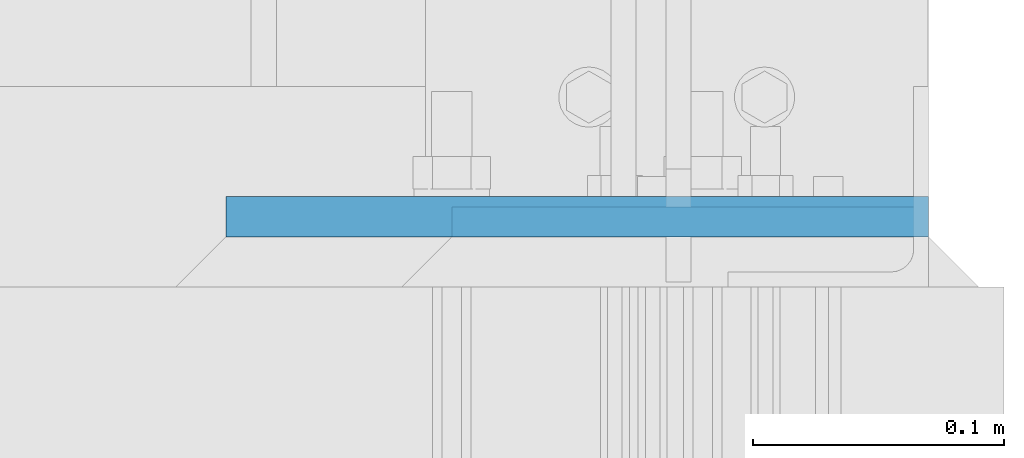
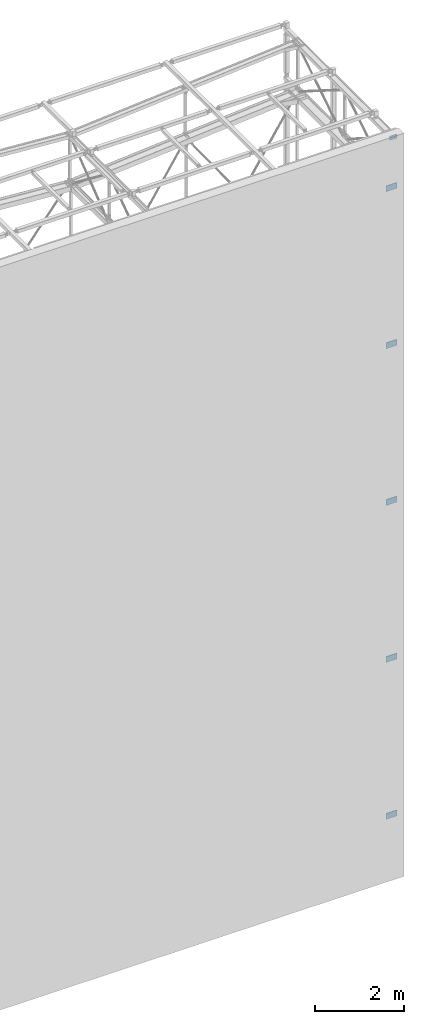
# One storey, part 83 of 271: 6 beams, 6 elements without a shape of their own.
"""IFC2X3 building model written with IfcOpenShell, lengths in millimetres."""

from ifc_helpers import new_model, si_unit, frame, origin_with_axes, origin_2d_with_axis, place, context, subcontext, project, spatial, rectangle, extrude, material, type_object, element, aggregate, save


model = new_model("IFC2X3")

# Units and contexts
model_context = context("Model", 3, precision=1e-05, world=origin_with_axes())
body_context = subcontext(model_context, "Body", "Model", "MODEL_VIEW")
ifc_project = project(units=[si_unit("LENGTHUNIT", "METRE", prefix="MILLI"), si_unit("AREAUNIT", "SQUARE_METRE"), si_unit("VOLUMEUNIT", "CUBIC_METRE"), si_unit("MASSUNIT", "GRAM", prefix="KILO"), si_unit("TIMEUNIT", "SECOND"), si_unit("PLANEANGLEUNIT", "RADIAN"), si_unit("SOLIDANGLEUNIT", "STERADIAN"), si_unit("THERMODYNAMICTEMPERATUREUNIT", "DEGREE_CELSIUS"), si_unit("LUMINOUSINTENSITYUNIT", "LUMEN")], contexts=[model_context])

# Site, building, storey
site_placement = place(None, origin_with_axes())
site = spatial("IfcSite", under=ifc_project, at=site_placement, Name="Undefined", CompositionType="ELEMENT")
building_placement = place(site_placement, origin_with_axes())
building = spatial("IfcBuilding", under=site, at=building_placement, Name="Undefined", CompositionType="ELEMENT")
storey_placement = place(building_placement, origin_with_axes())
storey = spatial("IfcBuildingStorey", under=building, at=storey_placement, Name="Undefined", CompositionType="ELEMENT", Elevation=0.0)

# Assembly, beam
assembly_1_placement = place(storey_placement, origin_with_axes())
assembly_1 = element("IfcElementAssembly", 1, at=assembly_1_placement, inside=storey, AssemblyPlace="NOTDEFINED", PredefinedType="RIGID_FRAME")
ifc_material = material(Name="STEEL/S355JR")
beam_type_1 = type_object("IfcBeamType", Name="BL12*110", PredefinedType="NOTDEFINED")
beam_1_placement = place(assembly_1_placement, frame((12518.3756870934, 25.3249842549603, 20004.3499999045), z_axis=(0.0, 0.0, -1.0), x_axis=(1.0, 0.0, 0.0)))
beam_1 = element("IfcBeam", 2, at=beam_1_placement, type_object=beam_type_1, material=ifc_material, Name="BLACHA_PODSTAWY", ObjectType="BL12*110", context=body_context, shape_type="SweptSolid", body=[
    extrude(rectangle(XDim=12.0, YDim=110.0, at=origin_2d_with_axis()), frame((190.0, 0.0, 0.0), z_axis=(-1.0, 0.0, 1.38777878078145e-17), x_axis=(0.0, -1.0, 0.0)), (0.0, 0.0, 1.0), 190.0),
])
aggregate(assembly_1, [beam_1])

assembly_2_placement = place(storey_placement, origin_with_axes())
assembly_2 = element("IfcElementAssembly", 3, at=assembly_2_placement, inside=storey, AssemblyPlace="NOTDEFINED", PredefinedType="RIGID_FRAME")
beam_type_2 = type_object("IfcBeamType", Name="BL16*160", PredefinedType="NOTDEFINED")
beam_2_placement = place(assembly_2_placement, frame((12428.3756870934, 27.3249842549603, 1364.34999990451), z_axis=(0.0, 0.0, -1.0), x_axis=(1.0, 0.0, 0.0)))
beam_2 = element("IfcBeam", 4, at=beam_2_placement, type_object=beam_type_2, material=ifc_material, Name="BLACHA_PODSTAWY", ObjectType="BL16*160", context=body_context, shape_type="SweptSolid", body=[
    extrude(rectangle(XDim=16.0, YDim=160.0, at=origin_2d_with_axis()), frame((280.0, 0.0, 0.0), z_axis=(-1.0, 0.0, 1.38777878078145e-17), x_axis=(0.0, -1.0, 0.0)), (0.0, 0.0, 1.0), 280.0),
])
aggregate(assembly_2, [beam_2])

assembly_3_placement = place(storey_placement, origin_with_axes())
assembly_3 = element("IfcElementAssembly", 5, at=assembly_3_placement, inside=storey, AssemblyPlace="NOTDEFINED", PredefinedType="RIGID_FRAME")
beam_3_placement = place(assembly_3_placement, frame((12428.3756870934, 27.3249842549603, 5684.34999990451), z_axis=(0.0, 0.0, -1.0), x_axis=(1.0, 0.0, 0.0)))
beam_3 = element("IfcBeam", 6, at=beam_3_placement, type_object=beam_type_2, material=ifc_material, Name="BLACHA_PODSTAWY", ObjectType="BL16*160", context=body_context, shape_type="SweptSolid", body=[
    extrude(rectangle(XDim=16.0, YDim=160.0, at=origin_2d_with_axis()), frame((280.0, 0.0, 0.0), z_axis=(-1.0, 0.0, 1.38777878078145e-17), x_axis=(0.0, -1.0, 0.0)), (0.0, 0.0, 1.0), 280.0),
])
aggregate(assembly_3, [beam_3])

assembly_4_placement = place(storey_placement, origin_with_axes())
assembly_4 = element("IfcElementAssembly", 7, at=assembly_4_placement, inside=storey, AssemblyPlace="NOTDEFINED", PredefinedType="RIGID_FRAME")
beam_4_placement = place(assembly_4_placement, frame((12428.3756870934, 27.3249842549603, 10004.3499999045), z_axis=(0.0, 0.0, -1.0), x_axis=(1.0, 0.0, 0.0)))
beam_4 = element("IfcBeam", 8, at=beam_4_placement, type_object=beam_type_2, material=ifc_material, Name="BLACHA_PODSTAWY", ObjectType="BL16*160", context=body_context, shape_type="SweptSolid", body=[
    extrude(rectangle(XDim=16.0, YDim=160.0, at=origin_2d_with_axis()), frame((280.0, 0.0, 0.0), z_axis=(-1.0, 0.0, 1.38777878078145e-17), x_axis=(0.0, -1.0, 0.0)), (0.0, 0.0, 1.0), 280.0),
])
aggregate(assembly_4, [beam_4])

assembly_5_placement = place(storey_placement, origin_with_axes())
assembly_5 = element("IfcElementAssembly", 9, at=assembly_5_placement, inside=storey, AssemblyPlace="NOTDEFINED", PredefinedType="RIGID_FRAME")
beam_5_placement = place(assembly_5_placement, frame((12428.3756870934, 27.3249842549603, 14324.3499999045), z_axis=(0.0, 0.0, -1.0), x_axis=(1.0, 0.0, 0.0)))
beam_5 = element("IfcBeam", 10, at=beam_5_placement, type_object=beam_type_2, material=ifc_material, Name="BLACHA_PODSTAWY", ObjectType="BL16*160", context=body_context, shape_type="SweptSolid", body=[
    extrude(rectangle(XDim=16.0, YDim=160.0, at=origin_2d_with_axis()), frame((280.0, 0.0, 0.0), z_axis=(-1.0, 0.0, 1.38777878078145e-17), x_axis=(0.0, -1.0, 0.0)), (0.0, 0.0, 1.0), 280.0),
])
aggregate(assembly_5, [beam_5])

assembly_6_placement = place(storey_placement, origin_with_axes())
assembly_6 = element("IfcElementAssembly", 11, at=assembly_6_placement, inside=storey, AssemblyPlace="NOTDEFINED", PredefinedType="RIGID_FRAME")
beam_6_placement = place(assembly_6_placement, frame((12428.3756870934, 27.3249842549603, 18644.3499999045), z_axis=(0.0, 0.0, -1.0), x_axis=(1.0, 0.0, 0.0)))
beam_6 = element("IfcBeam", 12, at=beam_6_placement, type_object=beam_type_2, material=ifc_material, Name="BLACHA_PODSTAWY", ObjectType="BL16*160", context=body_context, shape_type="SweptSolid", body=[
    extrude(rectangle(XDim=16.0, YDim=160.0, at=origin_2d_with_axis()), frame((280.0, 0.0, 0.0), z_axis=(-1.0, 0.0, 1.38777878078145e-17), x_axis=(0.0, -1.0, 0.0)), (0.0, 0.0, 1.0), 280.0),
])
aggregate(assembly_6, [beam_6])

save(model, "model.ifc")
